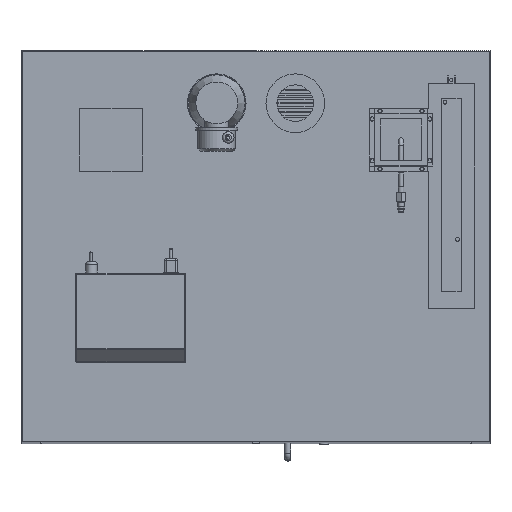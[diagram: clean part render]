
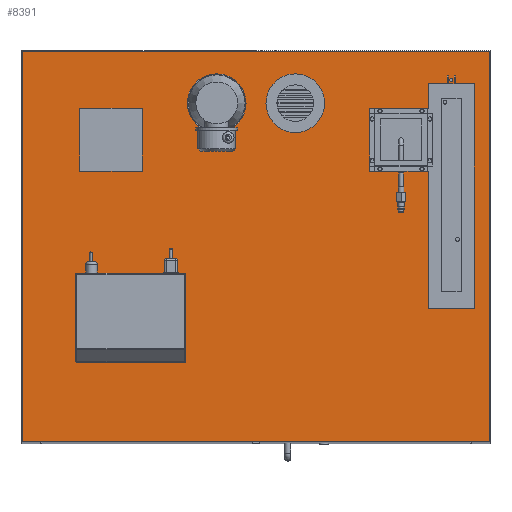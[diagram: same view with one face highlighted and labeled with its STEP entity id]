
A CAD part, top view. The second image highlights one B-rep face of the part: STEP entity #8391.
In plain terms, the highlighted planar face has unit normal (0, 0, 1).
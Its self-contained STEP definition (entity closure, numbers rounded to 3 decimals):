
#152=CIRCLE('',#8779,56.);
#153=CIRCLE('',#8780,56.);
#154=CIRCLE('',#8781,9.);
#155=CIRCLE('',#8782,9.);
#156=CIRCLE('',#8783,9.);
#157=CIRCLE('',#8784,9.);
#158=CIRCLE('',#8785,3.1);
#333=ORIENTED_EDGE('',*,*,#1909,.F.);
#334=ORIENTED_EDGE('',*,*,#1910,.F.);
#335=ORIENTED_EDGE('',*,*,#1911,.F.);
#336=ORIENTED_EDGE('',*,*,#1912,.F.);
#337=ORIENTED_EDGE('',*,*,#1913,.F.);
#338=ORIENTED_EDGE('',*,*,#1914,.F.);
#339=ORIENTED_EDGE('',*,*,#1915,.F.);
#340=ORIENTED_EDGE('',*,*,#1916,.F.);
#341=ORIENTED_EDGE('',*,*,#1917,.T.);
#342=ORIENTED_EDGE('',*,*,#1918,.T.);
#343=ORIENTED_EDGE('',*,*,#1919,.F.);
#344=ORIENTED_EDGE('',*,*,#1920,.F.);
#345=ORIENTED_EDGE('',*,*,#1921,.F.);
#346=ORIENTED_EDGE('',*,*,#1922,.F.);
#347=ORIENTED_EDGE('',*,*,#1923,.T.);
#348=ORIENTED_EDGE('',*,*,#1924,.F.);
#349=ORIENTED_EDGE('',*,*,#1925,.F.);
#350=ORIENTED_EDGE('',*,*,#1926,.F.);
#351=ORIENTED_EDGE('',*,*,#1927,.F.);
#352=ORIENTED_EDGE('',*,*,#1928,.F.);
#353=ORIENTED_EDGE('',*,*,#1929,.F.);
#354=ORIENTED_EDGE('',*,*,#1930,.F.);
#355=ORIENTED_EDGE('',*,*,#1931,.F.);
#356=ORIENTED_EDGE('',*,*,#1932,.F.);
#357=ORIENTED_EDGE('',*,*,#1933,.F.);
#358=ORIENTED_EDGE('',*,*,#1934,.T.);
#359=ORIENTED_EDGE('',*,*,#1935,.T.);
#360=ORIENTED_EDGE('',*,*,#1936,.T.);
#361=ORIENTED_EDGE('',*,*,#1937,.F.);
#362=ORIENTED_EDGE('',*,*,#1938,.F.);
#363=ORIENTED_EDGE('',*,*,#1939,.F.);
#1909=EDGE_CURVE('',#2697,#2698,#3244,.T.);
#1910=EDGE_CURVE('',#2699,#2697,#3245,.T.);
#1911=EDGE_CURVE('',#2700,#2699,#3246,.T.);
#1912=EDGE_CURVE('',#2698,#2700,#3247,.T.);
#1913=EDGE_CURVE('',#2701,#2702,#3248,.T.);
#1914=EDGE_CURVE('',#2703,#2701,#3249,.T.);
#1915=EDGE_CURVE('',#2704,#2703,#3250,.T.);
#1916=EDGE_CURVE('',#2702,#2704,#3251,.T.);
#1917=EDGE_CURVE('',#2705,#2705,#152,.T.);
#1918=EDGE_CURVE('',#2706,#2706,#153,.T.);
#1919=EDGE_CURVE('',#2707,#2707,#154,.F.);
#1920=EDGE_CURVE('',#2708,#2708,#155,.F.);
#1921=EDGE_CURVE('',#2709,#2709,#156,.F.);
#1922=EDGE_CURVE('',#2710,#2710,#157,.F.);
#1923=EDGE_CURVE('',#2711,#2711,#158,.T.);
#1924=EDGE_CURVE('',#2712,#2713,#3252,.T.);
#1925=EDGE_CURVE('',#2714,#2712,#3253,.T.);
#1926=EDGE_CURVE('',#2715,#2714,#3254,.T.);
#1927=EDGE_CURVE('',#2716,#2715,#3255,.T.);
#1928=EDGE_CURVE('',#2717,#2716,#3256,.T.);
#1929=EDGE_CURVE('',#2718,#2717,#3257,.T.);
#1930=EDGE_CURVE('',#2719,#2718,#3258,.T.);
#1931=EDGE_CURVE('',#2720,#2719,#3259,.T.);
#1932=EDGE_CURVE('',#2721,#2720,#3260,.T.);
#1933=EDGE_CURVE('',#2722,#2721,#3261,.T.);
#1934=EDGE_CURVE('',#2722,#2723,#3262,.T.);
#1935=EDGE_CURVE('',#2723,#2724,#3263,.T.);
#1936=EDGE_CURVE('',#2724,#2725,#3264,.T.);
#1937=EDGE_CURVE('',#2726,#2725,#3265,.T.);
#1938=EDGE_CURVE('',#2727,#2726,#3266,.T.);
#1939=EDGE_CURVE('',#2713,#2727,#3267,.T.);
#2697=VERTEX_POINT('',#11067);
#2698=VERTEX_POINT('',#11068);
#2699=VERTEX_POINT('',#11070);
#2700=VERTEX_POINT('',#11072);
#2701=VERTEX_POINT('',#11075);
#2702=VERTEX_POINT('',#11076);
#2703=VERTEX_POINT('',#11078);
#2704=VERTEX_POINT('',#11080);
#2705=VERTEX_POINT('',#11083);
#2706=VERTEX_POINT('',#11085);
#2707=VERTEX_POINT('',#11087);
#2708=VERTEX_POINT('',#11089);
#2709=VERTEX_POINT('',#11091);
#2710=VERTEX_POINT('',#11093);
#2711=VERTEX_POINT('',#11095);
#2712=VERTEX_POINT('',#11097);
#2713=VERTEX_POINT('',#11098);
#2714=VERTEX_POINT('',#11100);
#2715=VERTEX_POINT('',#11102);
#2716=VERTEX_POINT('',#11104);
#2717=VERTEX_POINT('',#11106);
#2718=VERTEX_POINT('',#11108);
#2719=VERTEX_POINT('',#11110);
#2720=VERTEX_POINT('',#11112);
#2721=VERTEX_POINT('',#11114);
#2722=VERTEX_POINT('',#11116);
#2723=VERTEX_POINT('',#11118);
#2724=VERTEX_POINT('',#11120);
#2725=VERTEX_POINT('',#11122);
#2726=VERTEX_POINT('',#11124);
#2727=VERTEX_POINT('',#11126);
#3244=LINE('',#11066,#3839);
#3245=LINE('',#11069,#3840);
#3246=LINE('',#11071,#3841);
#3247=LINE('',#11073,#3842);
#3248=LINE('',#11074,#3843);
#3249=LINE('',#11077,#3844);
#3250=LINE('',#11079,#3845);
#3251=LINE('',#11081,#3846);
#3252=LINE('',#11096,#3847);
#3253=LINE('',#11099,#3848);
#3254=LINE('',#11101,#3849);
#3255=LINE('',#11103,#3850);
#3256=LINE('',#11105,#3851);
#3257=LINE('',#11107,#3852);
#3258=LINE('',#11109,#3853);
#3259=LINE('',#11111,#3854);
#3260=LINE('',#11113,#3855);
#3261=LINE('',#11115,#3856);
#3262=LINE('',#11117,#3857);
#3263=LINE('',#11119,#3858);
#3264=LINE('',#11121,#3859);
#3265=LINE('',#11123,#3860);
#3266=LINE('',#11125,#3861);
#3267=LINE('',#11127,#3862);
#3839=VECTOR('',#9345,1000.);
#3840=VECTOR('',#9346,1000.);
#3841=VECTOR('',#9347,1000.);
#3842=VECTOR('',#9348,1000.);
#3843=VECTOR('',#9349,1000.);
#3844=VECTOR('',#9350,1000.);
#3845=VECTOR('',#9351,1000.);
#3846=VECTOR('',#9352,1000.);
#3847=VECTOR('',#9367,1000.);
#3848=VECTOR('',#9368,1000.);
#3849=VECTOR('',#9369,1000.);
#3850=VECTOR('',#9370,1000.);
#3851=VECTOR('',#9371,1000.);
#3852=VECTOR('',#9372,1000.);
#3853=VECTOR('',#9373,1000.);
#3854=VECTOR('',#9374,1000.);
#3855=VECTOR('',#9375,1000.);
#3856=VECTOR('',#9376,1000.);
#3857=VECTOR('',#9377,1000.);
#3858=VECTOR('',#9378,1000.);
#3859=VECTOR('',#9379,1000.);
#3860=VECTOR('',#9380,1000.);
#3861=VECTOR('',#9381,1000.);
#3862=VECTOR('',#9382,1000.);
#4434=EDGE_LOOP('',(#333,#334,#335,#336));
#4435=EDGE_LOOP('',(#337,#338,#339,#340));
#4436=EDGE_LOOP('',(#341));
#4437=EDGE_LOOP('',(#342));
#4438=EDGE_LOOP('',(#343));
#4439=EDGE_LOOP('',(#344));
#4440=EDGE_LOOP('',(#345));
#4441=EDGE_LOOP('',(#346));
#4442=EDGE_LOOP('',(#347));
#4443=EDGE_LOOP('',(#348,#349,#350,#351,#352,#353,#354,#355,#356,#357,#358,
#359,#360,#361,#362,#363));
#4951=FACE_BOUND('',#4434,.T.);
#4952=FACE_BOUND('',#4435,.T.);
#4953=FACE_BOUND('',#4436,.T.);
#4954=FACE_BOUND('',#4437,.T.);
#4955=FACE_BOUND('',#4438,.T.);
#4956=FACE_BOUND('',#4439,.T.);
#4957=FACE_BOUND('',#4440,.T.);
#4958=FACE_BOUND('',#4441,.T.);
#4959=FACE_BOUND('',#4442,.T.);
#4960=FACE_BOUND('',#4443,.T.);
#5468=PLANE('',#8778);
#8391=ADVANCED_FACE('',(#4951,#4952,#4953,#4954,#4955,#4956,#4957,#4958,
#4959,#4960),#5468,.F.);
#8778=AXIS2_PLACEMENT_3D('',#11065,#9343,#9344);
#8779=AXIS2_PLACEMENT_3D('',#11082,#9353,#9354);
#8780=AXIS2_PLACEMENT_3D('',#11084,#9355,#9356);
#8781=AXIS2_PLACEMENT_3D('',#11086,#9357,#9358);
#8782=AXIS2_PLACEMENT_3D('',#11088,#9359,#9360);
#8783=AXIS2_PLACEMENT_3D('',#11090,#9361,#9362);
#8784=AXIS2_PLACEMENT_3D('',#11092,#9363,#9364);
#8785=AXIS2_PLACEMENT_3D('',#11094,#9365,#9366);
#9343=DIRECTION('',(0.,0.,-1.));
#9344=DIRECTION('',(-1.,0.,0.));
#9345=DIRECTION('',(0.,1.,0.));
#9346=DIRECTION('',(1.,0.,0.));
#9347=DIRECTION('',(0.,-1.,0.));
#9348=DIRECTION('',(-1.,0.,0.));
#9349=DIRECTION('',(-1.,0.,0.));
#9350=DIRECTION('',(0.,-1.,0.));
#9351=DIRECTION('',(1.,0.,0.));
#9352=DIRECTION('',(0.,1.,0.));
#9353=DIRECTION('',(0.,0.,-1.));
#9354=DIRECTION('',(1.,0.,0.));
#9355=DIRECTION('',(0.,0.,-1.));
#9356=DIRECTION('',(1.,0.,0.));
#9357=DIRECTION('',(0.,0.,-1.));
#9358=DIRECTION('',(-1.,0.,0.));
#9359=DIRECTION('',(0.,0.,-1.));
#9360=DIRECTION('',(-1.,0.,0.));
#9361=DIRECTION('',(0.,0.,-1.));
#9362=DIRECTION('',(-1.,0.,0.));
#9363=DIRECTION('',(0.,0.,-1.));
#9364=DIRECTION('',(-1.,0.,0.));
#9365=DIRECTION('',(0.,0.,-1.));
#9366=DIRECTION('',(1.,0.,0.));
#9367=DIRECTION('',(0.,1.,0.));
#9368=DIRECTION('',(-1.,0.,0.));
#9369=DIRECTION('',(0.,1.,0.));
#9370=DIRECTION('',(1.,0.,0.));
#9371=DIRECTION('',(0.,-1.,0.));
#9372=DIRECTION('',(1.,0.,0.));
#9373=DIRECTION('',(0.,-1.,0.));
#9374=DIRECTION('',(-1.,0.,0.));
#9375=DIRECTION('',(0.,-1.,0.));
#9376=DIRECTION('',(-1.,0.,0.));
#9377=DIRECTION('',(0.,1.,0.));
#9378=DIRECTION('',(1.,0.,0.));
#9379=DIRECTION('',(0.,-1.,0.));
#9380=DIRECTION('',(-1.,0.,0.));
#9381=DIRECTION('',(0.,-1.,0.));
#9382=DIRECTION('',(-1.,0.,0.));
#11065=CARTESIAN_POINT('',(-150.,135.,2075.));
#11066=CARTESIAN_POINT('',(230.,517.,2075.));
#11067=CARTESIAN_POINT('',(230.,517.,2075.));
#11068=CARTESIAN_POINT('',(230.,637.,2075.));
#11069=CARTESIAN_POINT('',(110.,517.,2075.));
#11070=CARTESIAN_POINT('',(110.,517.,2075.));
#11071=CARTESIAN_POINT('',(110.,637.,2075.));
#11072=CARTESIAN_POINT('',(110.,637.,2075.));
#11073=CARTESIAN_POINT('',(230.,637.,2075.));
#11074=CARTESIAN_POINT('',(893.9,0.5,2075.));
#11075=CARTESIAN_POINT('',(893.9,0.5,2075.));
#11076=CARTESIAN_POINT('',(0.1,0.5,2075.));
#11077=CARTESIAN_POINT('',(893.9,746.5,2075.));
#11078=CARTESIAN_POINT('',(893.9,746.5,2075.));
#11079=CARTESIAN_POINT('',(0.1,746.5,2075.));
#11080=CARTESIAN_POINT('',(0.1,746.5,2075.));
#11081=CARTESIAN_POINT('',(0.1,0.5,2075.));
#11082=CARTESIAN_POINT('',(372.,647.,2075.));
#11083=CARTESIAN_POINT('',(428.,647.,2075.));
#11084=CARTESIAN_POINT('',(521.998,647.,2075.));
#11085=CARTESIAN_POINT('',(577.998,647.,2075.));
#11086=CARTESIAN_POINT('',(115.119,167.181,2075.));
#11087=CARTESIAN_POINT('',(106.119,167.181,2075.));
#11088=CARTESIAN_POINT('',(300.119,307.181,2075.));
#11089=CARTESIAN_POINT('',(291.119,307.181,2075.));
#11090=CARTESIAN_POINT('',(297.619,167.181,2075.));
#11091=CARTESIAN_POINT('',(288.619,167.181,2075.));
#11092=CARTESIAN_POINT('',(115.119,307.181,2075.));
#11093=CARTESIAN_POINT('',(106.119,307.181,2075.));
#11094=CARTESIAN_POINT('',(820.,691.5,2075.));
#11095=CARTESIAN_POINT('',(823.1,691.5,2075.));
#11096=CARTESIAN_POINT('',(827.5,684.,2075.));
#11097=CARTESIAN_POINT('',(827.5,684.,2075.));
#11098=CARTESIAN_POINT('',(827.5,699.,2075.));
#11099=CARTESIAN_POINT('',(864.,684.,2075.));
#11100=CARTESIAN_POINT('',(864.,684.,2075.));
#11101=CARTESIAN_POINT('',(864.,255.,2075.));
#11102=CARTESIAN_POINT('',(864.,255.,2075.));
#11103=CARTESIAN_POINT('',(776.,255.,2075.));
#11104=CARTESIAN_POINT('',(776.,255.,2075.));
#11105=CARTESIAN_POINT('',(776.,517.,2075.));
#11106=CARTESIAN_POINT('',(776.,517.,2075.));
#11107=CARTESIAN_POINT('',(664.,517.,2075.));
#11108=CARTESIAN_POINT('',(664.,517.,2075.));
#11109=CARTESIAN_POINT('',(664.,637.,2075.));
#11110=CARTESIAN_POINT('',(664.,637.,2075.));
#11111=CARTESIAN_POINT('',(776.,637.,2075.));
#11112=CARTESIAN_POINT('',(776.,637.,2075.));
#11113=CARTESIAN_POINT('',(776.,684.,2075.));
#11114=CARTESIAN_POINT('',(776.,684.,2075.));
#11115=CARTESIAN_POINT('',(864.,684.,2075.));
#11116=CARTESIAN_POINT('',(812.5,684.,2075.));
#11117=CARTESIAN_POINT('',(812.5,699.,2075.));
#11118=CARTESIAN_POINT('',(812.5,699.,2075.));
#11119=CARTESIAN_POINT('',(814.5,699.,2075.));
#11120=CARTESIAN_POINT('',(814.5,699.,2075.));
#11121=CARTESIAN_POINT('',(814.5,699.,2075.));
#11122=CARTESIAN_POINT('',(814.5,684.,2075.));
#11123=CARTESIAN_POINT('',(864.,684.,2075.));
#11124=CARTESIAN_POINT('',(825.5,684.,2075.));
#11125=CARTESIAN_POINT('',(825.5,699.,2075.));
#11126=CARTESIAN_POINT('',(825.5,699.,2075.));
#11127=CARTESIAN_POINT('',(827.5,699.,2075.));
